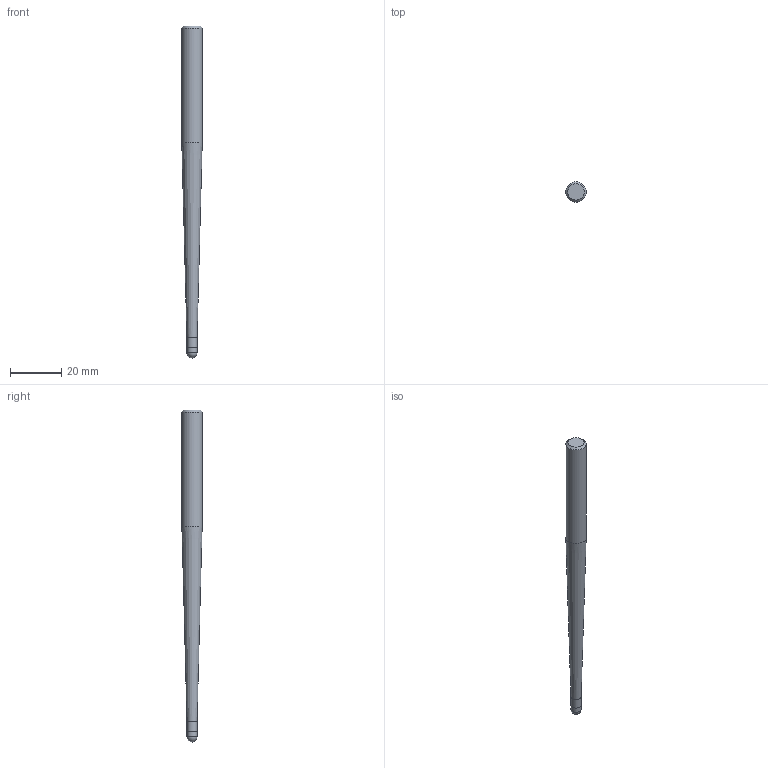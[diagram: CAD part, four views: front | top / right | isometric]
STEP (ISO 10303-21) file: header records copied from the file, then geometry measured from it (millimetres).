
FILE_DESCRIPTION((''),'2;1');
FILE_NAME('C:\Users\nsx150\AppData\Local\Temp\Mastercam 2021\SNAKH10GOD\TEMP.step','2021-10-21T13:33:36',(''),(''),'STEP Write','Mastercam 2021 ... CNC Software, Inc.','');
FILE_SCHEMA(('AUTOMOTIVE_DESIGN'));
Length unit declared in the file: millimetre
Products named in the file (1): None
Bounding box: 8 x 8 x 130 mm (x, y, z)
Volume: 4612.1 mm3; surface area: 2747.8 mm2
Topology: 2 solids, 2 shells, 9 faces, 14 edges, 8 vertices
Faces by surface type: plane 3, cylinder 3, cone 2, sphere 1
Full cylindrical faces by diameter (mm): 3.98 x1, 4 x1, 8 x1
Entity records: 211 total; most frequent: DIRECTION 36, CARTESIAN_POINT 25, AXIS2_PLACEMENT_3D 18, ORIENTED_EDGE 14, EDGE_LOOP 14, STYLED_ITEM 12, ADVANCED_FACE 9, FACE_BOUND 8
